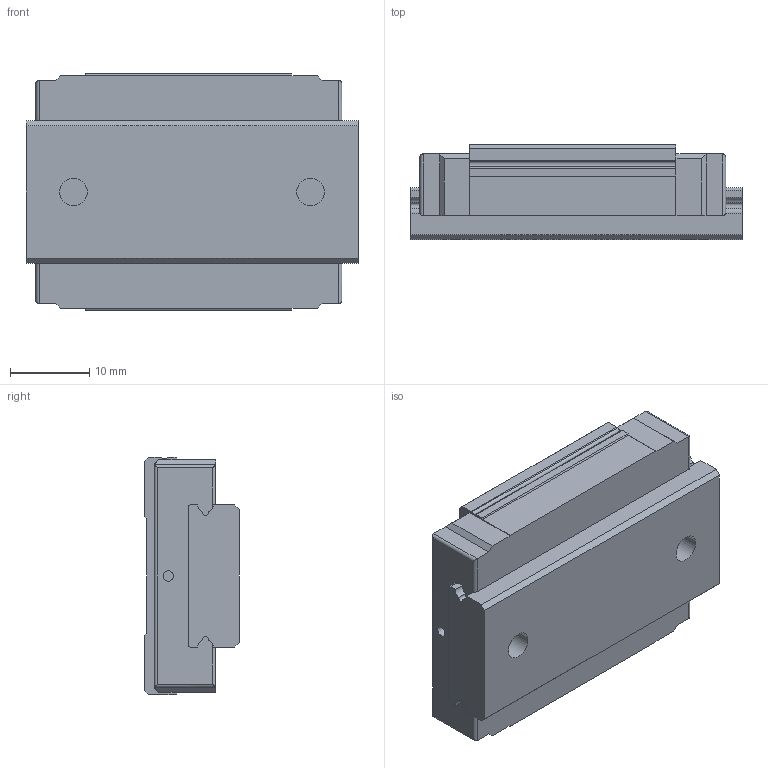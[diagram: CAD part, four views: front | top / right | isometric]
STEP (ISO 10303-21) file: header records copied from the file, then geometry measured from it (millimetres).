
FILE_DESCRIPTION( ( 'STEP AP214' ), '1' );
FILE_NAME( 'G:/品牌/AZI工艺/滑块/GGC/GGC9AK.stp', '2024-01-19T03:39:48', ( 'License CC BY-ND 4.0' ), ( 'CADENAS' ), ' ', 'PARTsolutions', ' ' );
FILE_SCHEMA( ( 'AUTOMOTIVE_DESIGN { 1 0 10303 214 1 1 1 1 }' ) );
Length unit declared in the file: millimetre
Products named in the file (3): ZCEW12-42-(20.6-0-0); _ZTCEW12-42; _ZZCEW12
Assembly tree (2 placements, depth 2):
  ZCEW12-42-(20.6-0-0)
    _ZTCEW12-42
    _ZZCEW12
Bounding box: 42 x 12 x 30 mm (x, y, z)
Volume: 11841.5 mm3; surface area: 6507.8 mm2
Topology: 2 solids, 2 shells, 108 faces, 284 edges, 180 vertices
Faces by surface type: plane 61, cylinder 39, cone 8
Full cylindrical faces by diameter (mm): 1.3 x2, 2.459 x4, 3.5 x2, 6 x2
Entity records: 4130 total; most frequent: CARTESIAN_POINT 569, DIRECTION 554, ORIENTED_EDGE 524, EDGE_CURVE 262, AXIS2_PLACEMENT_3D 185, LINE 184, VECTOR 184, VERTEX_POINT 180
